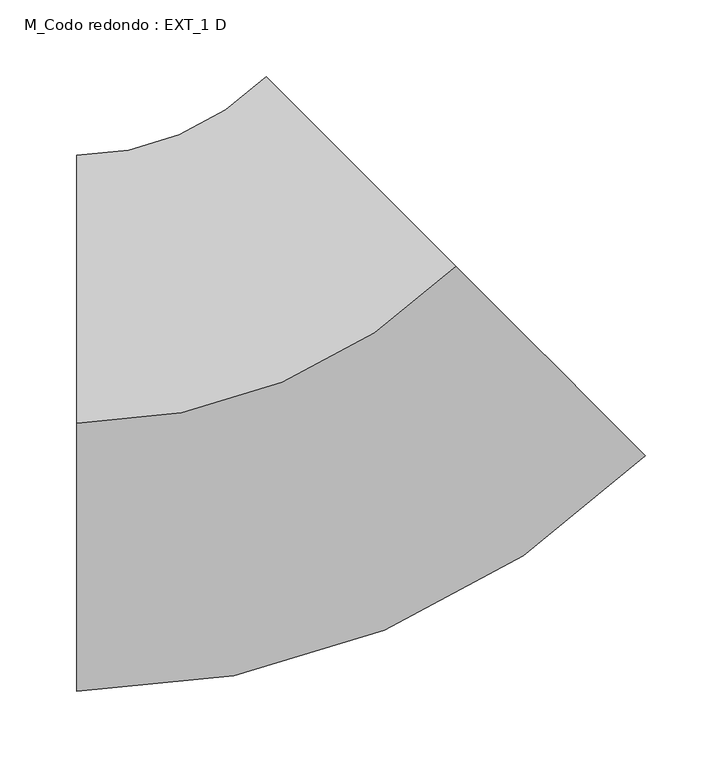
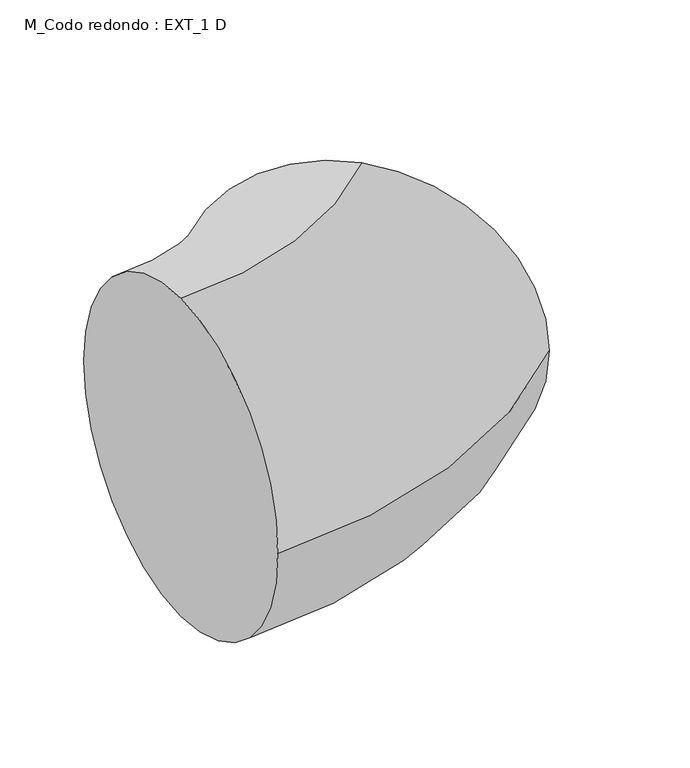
"""IFC4 building model written with IfcOpenShell, lengths in millimetres: duct fitting geometry, M_Codo redondo : EXT_1 D."""

from ifc_helpers import new_model, si_unit, point, frame, origin, place, context, project, spatial, circle_curve, ellipse_curve, trimmed, source, transform, mapped, element, save
from ifc_brep_helpers import plane_surface, revolved_surface, advanced_brep


def m_codo_redondo_ext_1_d_13bc036d(model_context):
    return source(origin(), model_context, "Body", "AdvancedBrep", [
        advanced_brep(
        [(-144.9747468, 0.0, 175.0), (-144.9747468, 175.0, 0.0), (-144.9747468, 0.0, -175.0), (-144.9747468, -175.0, 0.0), (102.5126266, 102.5126266, 175.0), (226.2563133, -21.2310601, 0.0), (102.5126266, 102.5126266, -175.0), (-21.2310601, 226.2563133, 0.0)],
        [
            (0, 1, circle_curve(frame((-144.9747468, 0.0, 0.0), z_axis=(-1.0, 0.0, 0.0), x_axis=(0.0, 1.0, 0.0)), 175.0)),
            (1, 2, circle_curve(frame((-144.9747468, 0.0, 0.0), z_axis=(-1.0, 0.0, 0.0), x_axis=(0.0, 1.0, 0.0)), 175.0)),
            (2, 3, circle_curve(frame((-144.9747468, 0.0, 0.0), z_axis=(-1.0, 0.0, 0.0), x_axis=(0.0, 1.0, 0.0)), 175.0)),
            (3, 0, circle_curve(frame((-144.9747468, 0.0, 0.0), z_axis=(-1.0, 0.0, 0.0), x_axis=(0.0, 1.0, 0.0)), 175.0)),
            (4, 5, circle_curve(frame((102.5126266, 102.5126266, 0.0), z_axis=(0.7071067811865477, 0.7071067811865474, 0.0), x_axis=(-0.7071067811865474, 0.7071067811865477, 0.0)), 175.0)),
            (5, 6, circle_curve(frame((102.5126266, 102.5126266, 0.0), z_axis=(0.7071067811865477, 0.7071067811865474, 0.0), x_axis=(-0.7071067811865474, 0.7071067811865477, 0.0)), 175.0)),
            (6, 7, circle_curve(frame((102.5126266, 102.5126266, 0.0), z_axis=(0.7071067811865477, 0.7071067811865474, 0.0), x_axis=(-0.7071067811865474, 0.7071067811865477, 0.0)), 175.0)),
            (7, 4, circle_curve(frame((102.5126266, 102.5126266, 0.0), z_axis=(0.7071067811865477, 0.7071067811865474, 0.0), x_axis=(-0.7071067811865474, 0.7071067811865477, 0.0)), 175.0)),
            (7, 1, circle_curve(frame((-144.9747468, 350.0, 0.0), z_axis=(0.0, 0.0, -1.0), x_axis=(0.0, -1.0, 0.0)), 175.0)),
            (0, 4, circle_curve(frame((-144.9747468, 350.0, 175.0), z_axis=(0.0, 0.0, 1.0), x_axis=(0.0, -1.0, 0.0)), 350.0)),
            (6, 2, circle_curve(frame((-144.9747468, 350.0, -175.0), z_axis=(0.0, 0.0, -1.0), x_axis=(0.0, -1.0, 0.0)), 350.0)),
            (5, 3, circle_curve(frame((-144.9747468, 350.0, 0.0), z_axis=(0.0, 0.0, -1.0), x_axis=(0.0, -1.0, 0.0)), 525.0)),
        ],
        [
            plane_surface(frame((-144.9747468, 0.0, 0.0), z_axis=(-1.0, 0.0, 0.0), x_axis=(0.0, 0.0, 1.0))),
            plane_surface(frame((102.5126266, 102.5126266, 0.0), z_axis=(0.7071067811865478, 0.7071067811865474, 0.0), x_axis=(0.0, 0.0, 1.0))),
            revolved_surface(trimmed(ellipse_curve(frame((-144.9747468, 0.0, 0.0), z_axis=(-1.0, 0.0, 0.0), x_axis=(0.0, 1.0, 0.0)), 175.0, 175.0), [point((-144.9747468, 0.0, 175.0))], [point((-144.9747468, 175.0, 0.0))], True, "CARTESIAN"), (-144.9747468, 350.0, 0.0), (0.0, 0.0, 1.0)),
            revolved_surface(trimmed(ellipse_curve(frame((-144.9747468, 0.0, 0.0), z_axis=(-1.0, 0.0, 0.0), x_axis=(0.0, 1.0, 0.0)), 175.0, 175.0), [point((-144.9747468, 175.0, 0.0))], [point((-144.9747468, 0.0, -175.0))], True, "CARTESIAN"), (-144.9747468, 350.0, 0.0), (0.0, 0.0, 1.0)),
            revolved_surface(trimmed(ellipse_curve(frame((-144.9747468, 0.0, 0.0), z_axis=(-1.0, 0.0, 0.0), x_axis=(0.0, 1.0, 0.0)), 175.0, 175.0), [point((-144.9747468, 0.0, -175.0))], [point((-144.9747468, -175.0, 0.0))], True, "CARTESIAN"), (-144.9747468, 350.0, 0.0), (0.0, 0.0, 1.0)),
            revolved_surface(trimmed(ellipse_curve(frame((-144.9747468, 0.0, 0.0), z_axis=(-1.0, 0.0, 0.0), x_axis=(0.0, 1.0, 0.0)), 175.0, 175.0), [point((-144.9747468, -175.0, 0.0))], [point((-144.9747468, 0.0, 175.0))], True, "CARTESIAN"), (-144.9747468, 350.0, 0.0), (0.0, 0.0, 1.0)),
        ],
        [
            (0, [[1, 2, 3, 4]]),
            (1, [[5, 6, 7, 8]]),
            (2, [[9, -1, 10, -8]]),
            (3, [[11, -2, -9, -7]]),
            (4, [[12, -3, -11, -6]]),
            (5, [[-10, -4, -12, -5]]),
        ],
    ),
    ])


if __name__ == "__main__":
    model = new_model("IFC4")
    model_context = context("Model", 3, world=origin())
    ifc_project = project(units=[si_unit("LENGTHUNIT", "METRE", prefix="MILLI")], contexts=[model_context])
    site = spatial("IfcSite", under=ifc_project)
    building = spatial("IfcBuilding", under=site)
    placement = place(None, origin())
    m_codo_redondo_ext_1_d_shape = m_codo_redondo_ext_1_d_13bc036d(model_context)
    element("IfcDuctFitting", 1, ObjectType="M_Codo redondo : EXT_1 D", at=placement, inside=building, context=model_context, shape_type="MappedRepresentation", body=[
        mapped(m_codo_redondo_ext_1_d_shape, transform((0.0, 0.0, 0.0), x_axis=(1.0, 0.0, 0.0), y_axis=(0.0, 1.0, 0.0), z_axis=(0.0, 0.0, 1.0))),
    ])
    save(model, "model.ifc")
